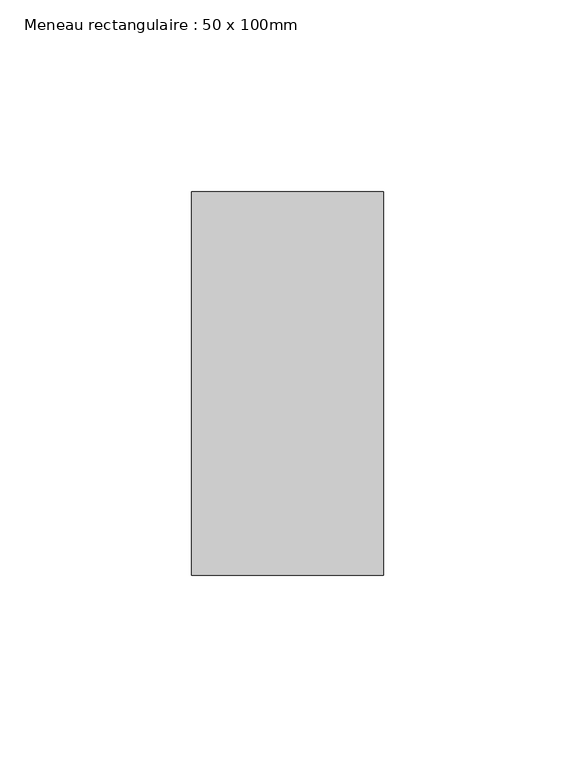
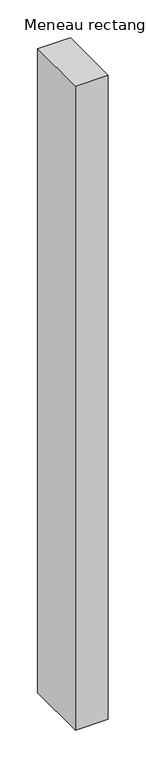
"""IFC4 building model written with IfcOpenShell, lengths in millimetres: member geometry, Meneau rectangulaire : 50 x 100mm."""

from ifc_helpers import new_model, si_unit, frame, origin, place, context, project, spatial, polyline, outline, extrude, source, transform, mapped, element, save


def meneau_rectangulaire_50_x_100mm_be9d7eec(model_context):
    return source(origin(), model_context, "Body", "SweptSolid", [
        extrude(outline(polyline([(0.0, 50.0), (0.0, -50.0), (-50.0, -50.0), (-50.0, 50.0), (0.0, 50.0)])), frame((0.0, 0.0, -1040.36452), z_axis=(0.0, 0.0, 1.0), x_axis=(1.0, 0.0, 0.0)), (0.0, 0.0, 1.0), 1040.36452),
    ])


if __name__ == "__main__":
    model = new_model("IFC4")
    model_context = context("Model", 3, world=origin())
    ifc_project = project(units=[si_unit("LENGTHUNIT", "METRE", prefix="MILLI")], contexts=[model_context])
    site = spatial("IfcSite", under=ifc_project)
    building = spatial("IfcBuilding", under=site)
    placement = place(None, origin())
    meneau_rectangulaire_50_x_100mm_shape = meneau_rectangulaire_50_x_100mm_be9d7eec(model_context)
    element("IfcMember", 1, ObjectType="Meneau rectangulaire : 50 x 100mm", at=placement, inside=building, context=model_context, shape_type="MappedRepresentation", body=[
        mapped(meneau_rectangulaire_50_x_100mm_shape, transform((0.0, 0.0, 0.0), x_axis=(1.0, 0.0, 0.0), y_axis=(0.0, 1.0, 0.0), z_axis=(0.0, 0.0, 1.0))),
    ])
    save(model, "model.ifc")
